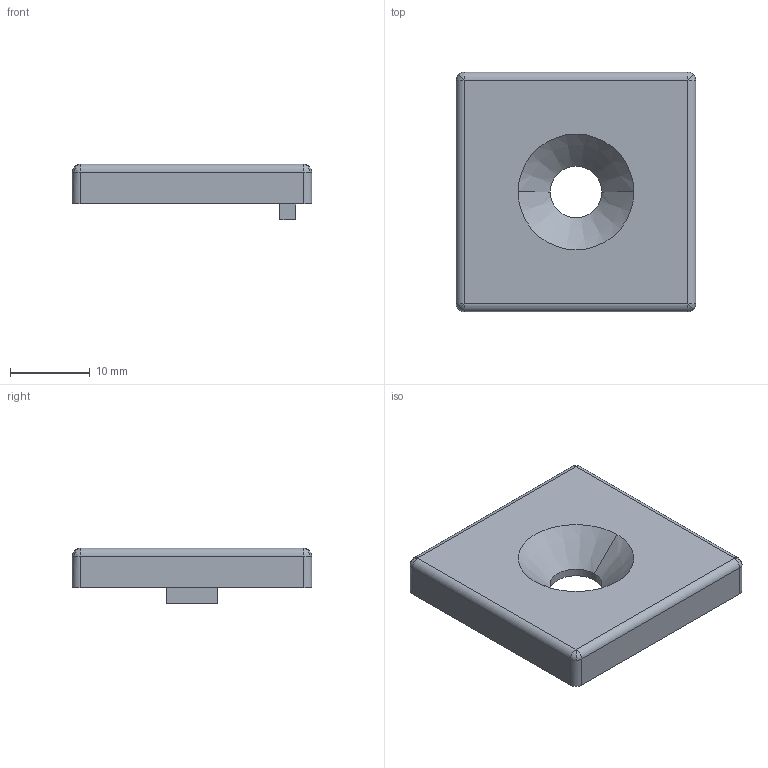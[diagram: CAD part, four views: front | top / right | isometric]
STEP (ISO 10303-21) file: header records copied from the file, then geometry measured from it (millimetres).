
FILE_DESCRIPTION (( 'STEP AP203' ), '1' );
FILE_NAME ('DEC3030A.STEP', '2022-06-23T05:10:01', ( '' ), ( '' ), 'SwSTEP 2.0', 'SolidWorks 2017', '' );
FILE_SCHEMA (( 'CONFIG_CONTROL_DESIGN' ));
Length unit declared in the file: millimetre
Products named in the file (1): DEC3030A
Bounding box: 30 x 30 x 7 mm (x, y, z)
Volume: 2525.7 mm3; surface area: 2759.5 mm2
Topology: 1 solids, 1 shells, 42 faces, 100 edges, 54 vertices
Faces by surface type: plane 18, cylinder 12, bspline 8, cone 4
Entity records: 1305 total; most frequent: CARTESIAN_POINT 309, DIRECTION 198, ORIENTED_EDGE 184, EDGE_CURVE 92, AXIS2_PLACEMENT_3D 71, LINE 56, VECTOR 56, VERTEX_POINT 54
